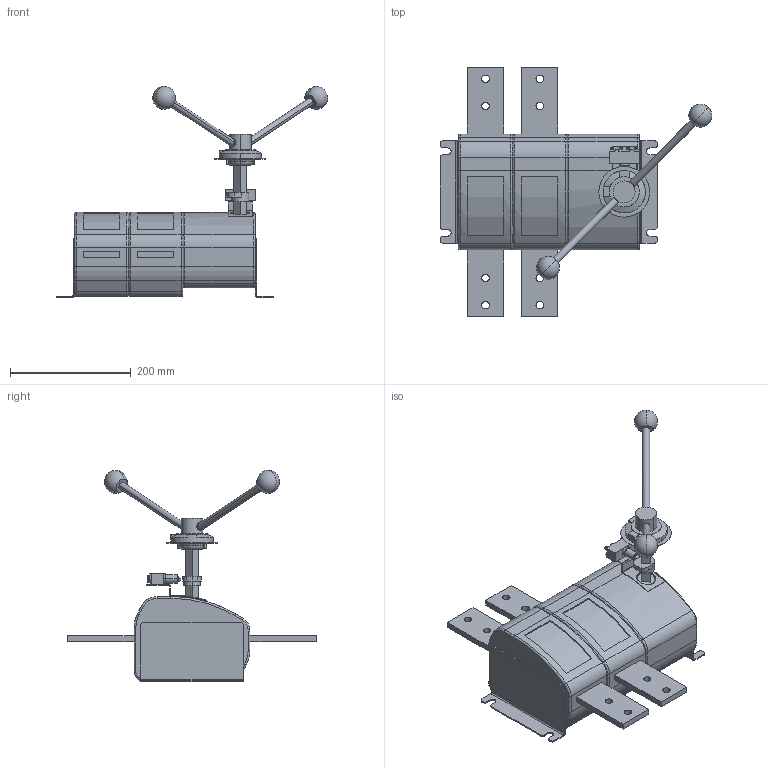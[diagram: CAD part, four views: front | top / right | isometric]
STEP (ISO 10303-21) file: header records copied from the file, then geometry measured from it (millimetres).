
FILE_DESCRIPTION (( 'STEP AP214' ), '1' );
FILE_NAME ('Âûêëþ÷àòåëü íàãðóçêè ÂÍÊ-43-21131-1600À-IP54-ÓÕË3-ÊÝÀÇ.STEP', '2023-04-19T13:45:02', ( '' ), ( '' ), 'SwSTEP 2.0', 'SolidWorks 2018', '' );
FILE_SCHEMA (( 'AUTOMOTIVE_DESIGN' ));
Length unit declared in the file: millimetre
Products named in the file (1): Âûêëþ÷àòåëü íàãðóçêè ÂÍÊ-43-21131-1600À-IP54-ÓÕË3-ÊÝÀÇ
Bounding box: 449.53 x 411.4 x 349.8 mm (x, y, z)
Volume: 7421398.6 mm3; surface area: 500621.1 mm2
Topology: 11 solids, 11 shells, 406 faces, 985 edges, 625 vertices
Faces by surface type: plane 185, cylinder 165, torus 46, sphere 6, cone 4
Entity records: 16971 total; most frequent: CARTESIAN_POINT 2591, DIRECTION 2175, ORIENTED_EDGE 1942, EDGE_CURVE 971, AXIS2_PLACEMENT_3D 821, VERTEX_POINT 617, VECTOR 533, LINE 533
